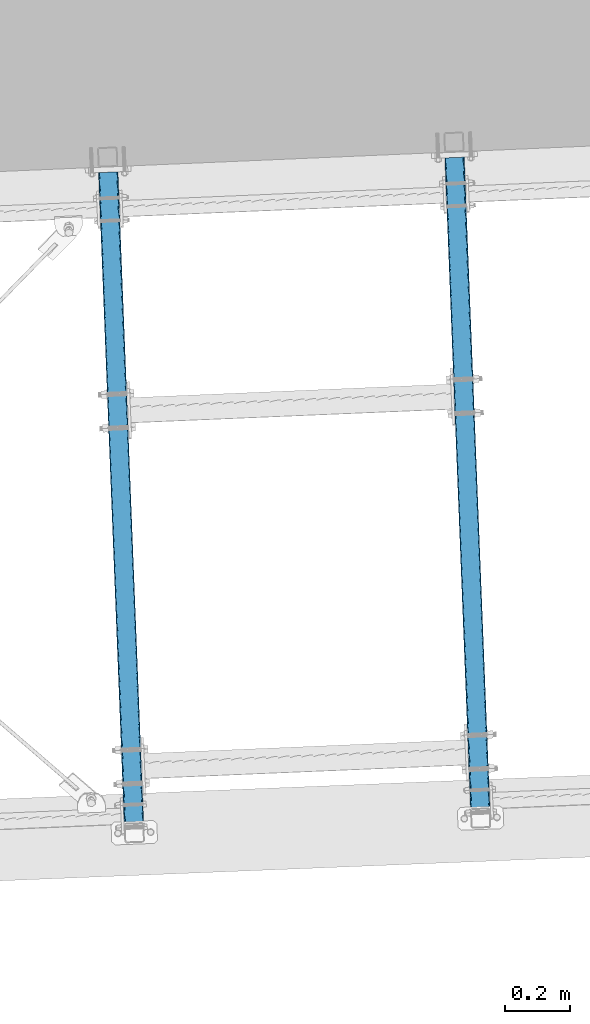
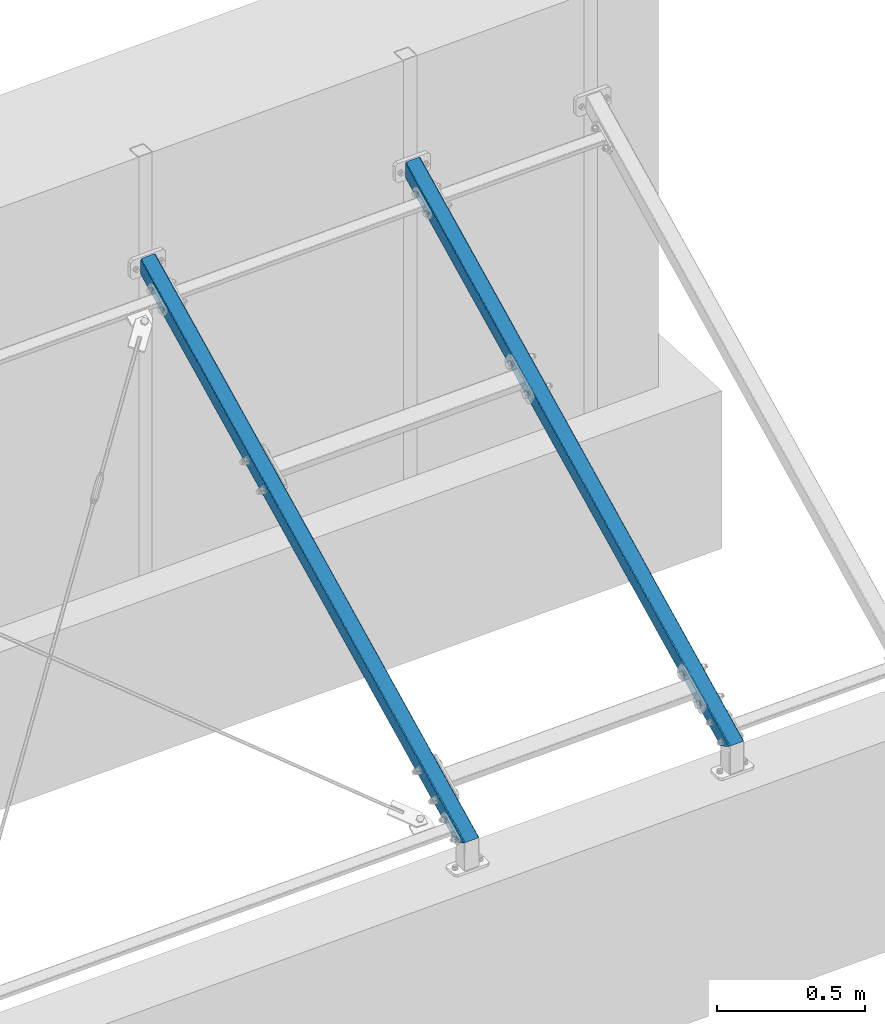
# One storey, part 17 of 288: 2 members, 64 openings.
"""IFC2X3 building model written with IfcOpenShell, lengths in millimetres."""

from ifc_helpers import new_model, entity, si_unit, converted_unit, frame, frame_2d, origin, origin_with_axes, origin_2d, place, context, project, spatial, hollow_rectangle, circle, extrude, clip, halfspace, material, element, save


model = new_model("IFC2X3")

# Units and contexts
model_context = context("Model", 3, precision=1e-09, world=origin_with_axes())
ifc_project = project(units=[si_unit("LENGTHUNIT", "METRE", prefix="MILLI"), si_unit("AREAUNIT", "SQUARE_METRE"), si_unit("VOLUMEUNIT", "CUBIC_METRE"), converted_unit("PLANEANGLEUNIT", "DEGREE", entity("IfcPlaneAngleMeasure", 0.01745329), si_unit("PLANEANGLEUNIT", "RADIAN"), dimensions=[0, 0, 0, 0, 0, 0, 0])], contexts=[model_context])

# Site, building, storey
site_placement = place(None, origin_with_axes())
site = spatial("IfcSite", under=ifc_project, at=site_placement, Name="Remont ?wietlik?w nad MC w NCPP w Opolu", CompositionType="ELEMENT")
building_placement = place(site_placement, origin_with_axes())
building = spatial("IfcBuilding", under=site, at=building_placement, Name="Konstrukcja 1", CompositionType="ELEMENT")
storey_placement = place(building_placement, origin_with_axes())
storey = spatial("IfcBuildingStorey", under=building, at=storey_placement, Name="Default Storey", CompositionType="ELEMENT", Elevation=0.0)

# Member, openings
ifc_material = material(Name="S235")
member_1_placement = place(None, frame((8694.041512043, 15968.596870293, 1320.859227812), z_axis=(0.034042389, -0.863500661, -0.503197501), x_axis=(-0.019822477, 0.502806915, -0.864171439)))
member_1 = element("IfcMember", 1, at=member_1_placement, inside=storey, material=ifc_material, Name="Horizontal_Beam", ObjectType="Horizontal_Beam", context=model_context, shape_type="Clipping", body=[
    clip(clip(clip(extrude(hollow_rectangle(XDim=60.0, YDim=60.0, WallThickness=3.0, InnerFilletRadius=3.0, OuterFilletRadius=6.0, at=origin_2d()), origin(), (0.0, 0.0, 1.0), 2455.927993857), halfspace(frame((1112.048083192, -9316.345389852, 715.144235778), z_axis=(-0.503197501, 0.0, 0.864171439), x_axis=(0.0, 1.0, 0.0)), True)), halfspace(frame((1119.775592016, -9316.341858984, 701.873318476), z_axis=(-0.503197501, -2.27e-07, 0.864171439), x_axis=(0.0, 1.0, 2.09e-07)), True)), halfspace(frame((-10124.500190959, -9316.345286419, 8227.453466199), z_axis=(-0.498398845, 0.0, -0.86694786), x_axis=(0.0, -1.0, 0.0)), True)),
])
opening_1_placement = place(member_1_placement, frame((7.732047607, 26.273066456, 2307.495272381), z_axis=(-0.001741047, -0.999995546, 0.002424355), x_axis=(0.999998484, -0.001741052, 0.0)))
element("IfcOpeningElement", 2, at=opening_1_placement, cuts=member_1, ObjectType="Opening", context=model_context, shape_type="SweptSolid", body=[
    extrude(circle(Radius=7.001, at=frame_2d((-7.001, -2.9551e-05), x_axis=(1.0, 0.0))), origin(), (0.0, 0.0, -1.0), 4.232758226),
])
opening_2_placement = place(member_1_placement, frame((7.732047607, 26.467015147, 2387.49503728), z_axis=(-0.001741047, -0.999995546, 0.002424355), x_axis=(0.999998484, -0.001741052, 0.0)))
element("IfcOpeningElement", 3, at=opening_2_placement, cuts=member_1, ObjectType="Opening", context=model_context, shape_type="SweptSolid", body=[
    extrude(circle(Radius=7.001, at=frame_2d((-7.001, -2.9551e-05), x_axis=(1.0, 0.0))), origin(), (0.0, 0.0, -1.0), 4.232758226),
])
opening_3_placement = place(member_1_placement, frame((7.732047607, 26.273066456, 2307.495272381), z_axis=(-0.001741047, -0.999995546, 0.002424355), x_axis=(0.999998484, -0.001741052, 0.0)))
element("IfcOpeningElement", 4, at=opening_3_placement, cuts=member_1, ObjectType="Opening", context=model_context, shape_type="SweptSolid", body=[
    extrude(circle(Radius=7.001, at=frame_2d((-7.001, -2.9551e-05), x_axis=(1.0, 0.0))), origin(), (0.0, 0.0, -1.0), 4.038808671),
])
opening_4_placement = place(member_1_placement, frame((7.732047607, 26.467015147, 2387.49503728), z_axis=(-0.001741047, -0.999995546, 0.002424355), x_axis=(0.999998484, -0.001741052, 0.0)))
element("IfcOpeningElement", 5, at=opening_4_placement, cuts=member_1, ObjectType="Opening", context=model_context, shape_type="SweptSolid", body=[
    extrude(circle(Radius=7.001, at=frame_2d((-7.001, -2.9551e-05), x_axis=(1.0, 0.0))), origin(), (0.0, 0.0, -1.0), 4.038808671),
])
opening_5_placement = place(member_1_placement, frame((7.632807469, -30.726933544, 2307.633461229), z_axis=(-0.001741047, -0.999995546, 0.002424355), x_axis=(0.999998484, -0.001741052, 0.0)))
element("IfcOpeningElement", 6, at=opening_5_placement, cuts=member_1, ObjectType="Opening", context=model_context, shape_type="SweptSolid", body=[
    extrude(circle(Radius=7.001, at=frame_2d((-7.001, -2.9551e-05), x_axis=(1.0, 0.0))), origin(), (0.0, 0.0, -1.0), 4.232758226),
])
opening_6_placement = place(member_1_placement, frame((7.632807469, -30.532984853, 2387.633226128), z_axis=(-0.001741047, -0.999995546, 0.002424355), x_axis=(0.999998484, -0.001741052, 0.0)))
element("IfcOpeningElement", 7, at=opening_6_placement, cuts=member_1, ObjectType="Opening", context=model_context, shape_type="SweptSolid", body=[
    extrude(circle(Radius=7.001, at=frame_2d((-7.001, -2.9551e-05), x_axis=(1.0, 0.0))), origin(), (0.0, 0.0, -1.0), 4.232758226),
])
opening_7_placement = place(member_1_placement, frame((7.632807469, -30.726933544, 2307.633461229), z_axis=(-0.001741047, -0.999995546, 0.002424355), x_axis=(0.999998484, -0.001741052, 0.0)))
element("IfcOpeningElement", 8, at=opening_7_placement, cuts=member_1, ObjectType="Opening", context=model_context, shape_type="SweptSolid", body=[
    extrude(circle(Radius=7.001, at=frame_2d((-7.001, -2.9551e-05), x_axis=(1.0, 0.0))), origin(), (0.0, 0.0, -1.0), 4.038808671),
])
opening_8_placement = place(member_1_placement, frame((7.632807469, -30.532984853, 2387.633226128), z_axis=(-0.001741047, -0.999995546, 0.002424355), x_axis=(0.999998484, -0.001741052, 0.0)))
element("IfcOpeningElement", 9, at=opening_8_placement, cuts=member_1, ObjectType="Opening", context=model_context, shape_type="SweptSolid", body=[
    extrude(circle(Radius=7.001, at=frame_2d((-7.001, -2.9551e-05), x_axis=(1.0, 0.0))), origin(), (0.0, 0.0, -1.0), 4.038808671),
])
opening_9_placement = place(member_1_placement, frame((7.799607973, 26.166667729, 852.304879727), z_axis=(-0.001741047, -0.999995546, 0.002424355), x_axis=(0.999998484, -0.001741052, 0.0)))
element("IfcOpeningElement", 10, at=opening_9_placement, cuts=member_1, ObjectType="Opening", context=model_context, shape_type="SweptSolid", body=[
    extrude(circle(Radius=9.001, at=frame_2d((-9.001, -3.7993e-05), x_axis=(1.0, 0.0))), origin(), (0.0, 0.0, -1.0), 4.340817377),
])
opening_10_placement = place(member_1_placement, frame((7.799607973, 26.457590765, 972.304527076), z_axis=(-0.001741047, -0.999995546, 0.002424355), x_axis=(0.999998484, -0.001741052, 0.0)))
element("IfcOpeningElement", 11, at=opening_10_placement, cuts=member_1, ObjectType="Opening", context=model_context, shape_type="SweptSolid", body=[
    extrude(circle(Radius=9.001, at=frame_2d((-9.001, -3.7993e-05), x_axis=(1.0, 0.0))), origin(), (0.0, 0.0, -1.0), 4.340817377),
])
opening_11_placement = place(member_1_placement, frame((7.799607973, 26.166667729, 852.304879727), z_axis=(-0.001741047, -0.999995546, 0.002424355), x_axis=(0.999998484, -0.001741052, 0.0)))
element("IfcOpeningElement", 12, at=opening_11_placement, cuts=member_1, ObjectType="Opening", context=model_context, shape_type="SweptSolid", body=[
    extrude(circle(Radius=9.001, at=frame_2d((-9.001, -3.7993e-05), x_axis=(1.0, 0.0))), origin(), (0.0, 0.0, -1.0), 4.049893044),
])
opening_12_placement = place(member_1_placement, frame((7.799607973, 26.457590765, 972.304527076), z_axis=(-0.001741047, -0.999995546, 0.002424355), x_axis=(0.999998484, -0.001741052, 0.0)))
element("IfcOpeningElement", 13, at=opening_12_placement, cuts=member_1, ObjectType="Opening", context=model_context, shape_type="SweptSolid", body=[
    extrude(circle(Radius=9.001, at=frame_2d((-9.001, -3.7993e-05), x_axis=(1.0, 0.0))), origin(), (0.0, 0.0, -1.0), 4.049893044),
])
opening_13_placement = place(member_1_placement, frame((7.700367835, -30.833332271, 852.443068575), z_axis=(-0.001741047, -0.999995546, 0.002424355), x_axis=(0.999998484, -0.001741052, 0.0)))
element("IfcOpeningElement", 14, at=opening_13_placement, cuts=member_1, ObjectType="Opening", context=model_context, shape_type="SweptSolid", body=[
    extrude(circle(Radius=9.001, at=frame_2d((-9.001, -3.7993e-05), x_axis=(1.0, 0.0))), origin(), (0.0, 0.0, -1.0), 4.340817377),
])
opening_14_placement = place(member_1_placement, frame((7.700367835, -30.542409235, 972.442715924), z_axis=(-0.001741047, -0.999995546, 0.002424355), x_axis=(0.999998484, -0.001741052, 0.0)))
element("IfcOpeningElement", 15, at=opening_14_placement, cuts=member_1, ObjectType="Opening", context=model_context, shape_type="SweptSolid", body=[
    extrude(circle(Radius=9.001, at=frame_2d((-9.001, -3.7993e-05), x_axis=(1.0, 0.0))), origin(), (0.0, 0.0, -1.0), 4.340817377),
])
opening_15_placement = place(member_1_placement, frame((7.700367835, -30.833332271, 852.443068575), z_axis=(-0.001741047, -0.999995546, 0.002424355), x_axis=(0.999998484, -0.001741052, 0.0)))
element("IfcOpeningElement", 16, at=opening_15_placement, cuts=member_1, ObjectType="Opening", context=model_context, shape_type="SweptSolid", body=[
    extrude(circle(Radius=9.001, at=frame_2d((-9.001, -3.7993e-05), x_axis=(1.0, 0.0))), origin(), (0.0, 0.0, -1.0), 4.049893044),
])
opening_16_placement = place(member_1_placement, frame((7.700367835, -30.542409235, 972.442715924), z_axis=(-0.001741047, -0.999995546, 0.002424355), x_axis=(0.999998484, -0.001741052, 0.0)))
element("IfcOpeningElement", 17, at=opening_16_placement, cuts=member_1, ObjectType="Opening", context=model_context, shape_type="SweptSolid", body=[
    extrude(circle(Radius=9.001, at=frame_2d((-9.001, -3.7993e-05), x_axis=(1.0, 0.0))), origin(), (0.0, 0.0, -1.0), 4.049893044),
])
opening_17_placement = place(member_1_placement, frame((-1.19403594, 30.617770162, 198.294353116), z_axis=(-0.001741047, -0.999995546, 0.002424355), x_axis=(-0.999998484, 0.001741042, -4.221e-06)))
element("IfcOpeningElement", 18, at=opening_17_placement, cuts=member_1, ObjectType="Opening", context=model_context, shape_type="SweptSolid", body=[
    extrude(circle(Radius=7.001, at=frame_2d((0.0, 40.0), x_axis=(1.0, 0.0))), origin(), (0.0, 0.0, 1.0), 4.038808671),
])
opening_18_placement = place(member_1_placement, frame((-1.19403594, 30.617770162, 198.294353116), z_axis=(-0.001741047, -0.999995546, 0.002424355), x_axis=(-0.999998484, 0.001741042, -4.221e-06)))
element("IfcOpeningElement", 19, at=opening_18_placement, cuts=member_1, ObjectType="Opening", context=model_context, shape_type="SweptSolid", body=[
    extrude(circle(Radius=7.001, at=frame_2d((0.0, -40.0), x_axis=(1.0, 0.0))), origin(), (0.0, 0.0, 1.0), 4.038808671),
])
opening_19_placement = place(member_1_placement, frame((-1.19403594, 30.617770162, 198.294353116), z_axis=(-0.001741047, -0.999995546, 0.002424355), x_axis=(-0.999998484, 0.001741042, -4.221e-06)))
element("IfcOpeningElement", 20, at=opening_19_placement, cuts=member_1, ObjectType="Opening", context=model_context, shape_type="SweptSolid", body=[
    extrude(circle(Radius=7.001, at=frame_2d((0.0, 40.0), x_axis=(1.0, 0.0))), origin(), (0.0, 0.0, 1.0), 4.232758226),
])
opening_20_placement = place(member_1_placement, frame((-1.19403594, 30.617770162, 198.294353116), z_axis=(-0.001741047, -0.999995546, 0.002424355), x_axis=(-0.999998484, 0.001741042, -4.221e-06)))
element("IfcOpeningElement", 21, at=opening_20_placement, cuts=member_1, ObjectType="Opening", context=model_context, shape_type="SweptSolid", body=[
    extrude(circle(Radius=7.001, at=frame_2d((0.0, -40.0), x_axis=(1.0, 0.0))), origin(), (0.0, 0.0, 1.0), 4.232758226),
])
opening_21_placement = place(member_1_placement, frame((-1.293276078, -26.382229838, 198.432541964), z_axis=(-0.001741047, -0.999995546, 0.002424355), x_axis=(-0.999998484, 0.001741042, -4.221e-06)))
element("IfcOpeningElement", 22, at=opening_21_placement, cuts=member_1, ObjectType="Opening", context=model_context, shape_type="SweptSolid", body=[
    extrude(circle(Radius=7.001, at=frame_2d((0.0, 40.0), x_axis=(1.0, 0.0))), origin(), (0.0, 0.0, 1.0), 4.038808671),
])
opening_22_placement = place(member_1_placement, frame((-1.293276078, -26.382229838, 198.432541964), z_axis=(-0.001741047, -0.999995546, 0.002424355), x_axis=(-0.999998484, 0.001741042, -4.221e-06)))
element("IfcOpeningElement", 23, at=opening_22_placement, cuts=member_1, ObjectType="Opening", context=model_context, shape_type="SweptSolid", body=[
    extrude(circle(Radius=7.001, at=frame_2d((0.0, -40.0), x_axis=(1.0, 0.0))), origin(), (0.0, 0.0, 1.0), 4.038808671),
])
opening_23_placement = place(member_1_placement, frame((-1.293276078, -26.382229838, 198.432541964), z_axis=(-0.001741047, -0.999995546, 0.002424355), x_axis=(-0.999998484, 0.001741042, -4.221e-06)))
element("IfcOpeningElement", 24, at=opening_23_placement, cuts=member_1, ObjectType="Opening", context=model_context, shape_type="SweptSolid", body=[
    extrude(circle(Radius=7.001, at=frame_2d((0.0, 40.0), x_axis=(1.0, 0.0))), origin(), (0.0, 0.0, 1.0), 4.232758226),
])
opening_24_placement = place(member_1_placement, frame((-1.293276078, -26.382229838, 198.432541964), z_axis=(-0.001741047, -0.999995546, 0.002424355), x_axis=(-0.999998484, 0.001741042, -4.221e-06)))
element("IfcOpeningElement", 25, at=opening_24_placement, cuts=member_1, ObjectType="Opening", context=model_context, shape_type="SweptSolid", body=[
    extrude(circle(Radius=7.001, at=frame_2d((0.0, -40.0), x_axis=(1.0, 0.0))), origin(), (0.0, 0.0, 1.0), 4.232758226),
])
opening_25_placement = place(member_1_placement, frame((7.794289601, 26.166667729, 2112.305056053), z_axis=(-0.001741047, -0.999995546, 0.002424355), x_axis=(0.999998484, -0.001741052, 0.0)))
element("IfcOpeningElement", 26, at=opening_25_placement, cuts=member_1, ObjectType="Opening", context=model_context, shape_type="SweptSolid", body=[
    extrude(circle(Radius=9.001, at=frame_2d((-9.001, -3.7993e-05), x_axis=(1.0, 0.0))), origin(), (0.0, 0.0, -1.0), 4.340817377),
])
opening_26_placement = place(member_1_placement, frame((7.794289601, 26.457590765, 2232.304703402), z_axis=(-0.001741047, -0.999995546, 0.002424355), x_axis=(0.999998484, -0.001741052, 0.0)))
element("IfcOpeningElement", 27, at=opening_26_placement, cuts=member_1, ObjectType="Opening", context=model_context, shape_type="SweptSolid", body=[
    extrude(circle(Radius=9.001, at=frame_2d((-9.001, -3.7993e-05), x_axis=(1.0, 0.0))), origin(), (0.0, 0.0, -1.0), 4.340817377),
])
opening_27_placement = place(member_1_placement, frame((7.794289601, 26.166667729, 2112.305056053), z_axis=(-0.001741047, -0.999995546, 0.002424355), x_axis=(0.999998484, -0.001741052, 0.0)))
element("IfcOpeningElement", 28, at=opening_27_placement, cuts=member_1, ObjectType="Opening", context=model_context, shape_type="SweptSolid", body=[
    extrude(circle(Radius=9.001, at=frame_2d((-9.001, -3.7993e-05), x_axis=(1.0, 0.0))), origin(), (0.0, 0.0, -1.0), 4.049893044),
])
opening_28_placement = place(member_1_placement, frame((7.794289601, 26.457590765, 2232.304703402), z_axis=(-0.001741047, -0.999995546, 0.002424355), x_axis=(0.999998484, -0.001741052, 0.0)))
element("IfcOpeningElement", 29, at=opening_28_placement, cuts=member_1, ObjectType="Opening", context=model_context, shape_type="SweptSolid", body=[
    extrude(circle(Radius=9.001, at=frame_2d((-9.001, -3.7993e-05), x_axis=(1.0, 0.0))), origin(), (0.0, 0.0, -1.0), 4.049893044),
])
opening_29_placement = place(member_1_placement, frame((7.695049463, -30.833332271, 2112.443244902), z_axis=(-0.001741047, -0.999995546, 0.002424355), x_axis=(0.999998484, -0.001741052, 0.0)))
element("IfcOpeningElement", 30, at=opening_29_placement, cuts=member_1, ObjectType="Opening", context=model_context, shape_type="SweptSolid", body=[
    extrude(circle(Radius=9.001, at=frame_2d((-9.001, -3.7993e-05), x_axis=(1.0, 0.0))), origin(), (0.0, 0.0, -1.0), 4.340817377),
])
opening_30_placement = place(member_1_placement, frame((7.695049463, -30.542409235, 2232.44289225), z_axis=(-0.001741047, -0.999995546, 0.002424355), x_axis=(0.999998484, -0.001741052, 0.0)))
element("IfcOpeningElement", 31, at=opening_30_placement, cuts=member_1, ObjectType="Opening", context=model_context, shape_type="SweptSolid", body=[
    extrude(circle(Radius=9.001, at=frame_2d((-9.001, -3.7993e-05), x_axis=(1.0, 0.0))), origin(), (0.0, 0.0, -1.0), 4.340817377),
])
opening_31_placement = place(member_1_placement, frame((7.695049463, -30.833332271, 2112.443244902), z_axis=(-0.001741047, -0.999995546, 0.002424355), x_axis=(0.999998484, -0.001741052, 0.0)))
element("IfcOpeningElement", 32, at=opening_31_placement, cuts=member_1, ObjectType="Opening", context=model_context, shape_type="SweptSolid", body=[
    extrude(circle(Radius=9.001, at=frame_2d((-9.001, -3.7993e-05), x_axis=(1.0, 0.0))), origin(), (0.0, 0.0, -1.0), 4.049893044),
])
opening_32_placement = place(member_1_placement, frame((7.695049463, -30.542409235, 2232.44289225), z_axis=(-0.001741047, -0.999995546, 0.002424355), x_axis=(0.999998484, -0.001741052, 0.0)))
element("IfcOpeningElement", 33, at=opening_32_placement, cuts=member_1, ObjectType="Opening", context=model_context, shape_type="SweptSolid", body=[
    extrude(circle(Radius=9.001, at=frame_2d((-9.001, -3.7993e-05), x_axis=(1.0, 0.0))), origin(), (0.0, 0.0, -1.0), 4.049893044),
])

member_2_placement = place(None, frame((9753.082518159, 16013.689863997, 1321.498411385), z_axis=(0.034038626, -0.863405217, -0.503361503), x_axis=(-0.019828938, 0.50297079, -0.864075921)))
member_2 = element("IfcMember", 34, at=member_2_placement, inside=storey, material=ifc_material, Name="Horizontal_Beam", ObjectType="Horizontal_Beam", context=model_context, shape_type="Clipping", body=[
    clip(clip(clip(extrude(hollow_rectangle(XDim=60.0, YDim=60.0, WallThickness=3.0, InnerFilletRadius=3.0, OuterFilletRadius=6.0, at=origin_2d()), origin(), (0.0, 0.0, 1.0), 2456.410924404), halfspace(frame((1112.369134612, -10376.340711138, 715.840907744), z_axis=(-0.503361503, 0.0, 0.864075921), x_axis=(0.0, 1.0, 0.0)), True)), halfspace(frame((1120.519583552, -10376.337179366, 701.849756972), z_axis=(-0.503361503, -2.27e-07, 0.864075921), x_axis=(0.0, 1.0, 2.09e-07)), True)), halfspace(frame((-10127.982579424, -10376.340607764, 8228.662370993), z_axis=(-0.498316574, 0.0, -0.866995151), x_axis=(0.0, -1.0, 0.0)), True)),
])
opening_33_placement = place(member_2_placement, frame((8.01160876, 26.273066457, 2308.134197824), z_axis=(-0.001741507, -0.999995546, 0.002424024), x_axis=(0.999998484, -0.001741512, 0.0)))
element("IfcOpeningElement", 35, at=opening_33_placement, cuts=member_2, ObjectType="Opening", context=model_context, shape_type="SweptSolid", body=[
    extrude(circle(Radius=7.001, at=frame_2d((-7.000999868, -0.001358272), x_axis=(1.0, 0.0))), origin(), (0.0, 0.0, -1.0), 4.232758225),
])
opening_34_placement = place(member_2_placement, frame((7.996425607, 26.467015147, 2388.133961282), z_axis=(-0.001741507, -0.999995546, 0.002424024), x_axis=(0.999998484, -0.001741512, 0.0)))
element("IfcOpeningElement", 36, at=opening_34_placement, cuts=member_2, ObjectType="Opening", context=model_context, shape_type="SweptSolid", body=[
    extrude(circle(Radius=7.001, at=frame_2d((-7.000999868, -0.001358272), x_axis=(1.0, 0.0))), origin(), (0.0, 0.0, -1.0), 4.232758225),
])
opening_35_placement = place(member_2_placement, frame((8.01160876, 26.273066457, 2308.134197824), z_axis=(-0.001741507, -0.999995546, 0.002424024), x_axis=(0.999998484, -0.001741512, 0.0)))
element("IfcOpeningElement", 37, at=opening_35_placement, cuts=member_2, ObjectType="Opening", context=model_context, shape_type="SweptSolid", body=[
    extrude(circle(Radius=7.001, at=frame_2d((-7.000999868, -0.001358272), x_axis=(1.0, 0.0))), origin(), (0.0, 0.0, -1.0), 4.038808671),
])
opening_36_placement = place(member_2_placement, frame((7.996425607, 26.467015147, 2388.133961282), z_axis=(-0.001741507, -0.999995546, 0.002424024), x_axis=(0.999998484, -0.001741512, 0.0)))
element("IfcOpeningElement", 38, at=opening_36_placement, cuts=member_2, ObjectType="Opening", context=model_context, shape_type="SweptSolid", body=[
    extrude(circle(Radius=7.001, at=frame_2d((-7.000999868, -0.001358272), x_axis=(1.0, 0.0))), origin(), (0.0, 0.0, -1.0), 4.038808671),
])
opening_37_placement = place(member_2_placement, frame((7.912342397, -30.726933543, 2308.272367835), z_axis=(-0.001741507, -0.999995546, 0.002424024), x_axis=(0.999998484, -0.001741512, 0.0)))
element("IfcOpeningElement", 39, at=opening_37_placement, cuts=member_2, ObjectType="Opening", context=model_context, shape_type="SweptSolid", body=[
    extrude(circle(Radius=7.001, at=frame_2d((-7.000999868, -0.001358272), x_axis=(1.0, 0.0))), origin(), (0.0, 0.0, -1.0), 4.232758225),
])
opening_38_placement = place(member_2_placement, frame((7.897159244, -30.532984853, 2388.272131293), z_axis=(-0.001741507, -0.999995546, 0.002424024), x_axis=(0.999998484, -0.001741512, 0.0)))
element("IfcOpeningElement", 40, at=opening_38_placement, cuts=member_2, ObjectType="Opening", context=model_context, shape_type="SweptSolid", body=[
    extrude(circle(Radius=7.001, at=frame_2d((-7.000999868, -0.001358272), x_axis=(1.0, 0.0))), origin(), (0.0, 0.0, -1.0), 4.232758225),
])
opening_39_placement = place(member_2_placement, frame((7.912342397, -30.726933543, 2308.272367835), z_axis=(-0.001741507, -0.999995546, 0.002424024), x_axis=(0.999998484, -0.001741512, 0.0)))
element("IfcOpeningElement", 41, at=opening_39_placement, cuts=member_2, ObjectType="Opening", context=model_context, shape_type="SweptSolid", body=[
    extrude(circle(Radius=7.001, at=frame_2d((-7.000999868, -0.001358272), x_axis=(1.0, 0.0))), origin(), (0.0, 0.0, -1.0), 4.038808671),
])
opening_40_placement = place(member_2_placement, frame((7.897159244, -30.532984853, 2388.272131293), z_axis=(-0.001741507, -0.999995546, 0.002424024), x_axis=(0.999998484, -0.001741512, 0.0)))
element("IfcOpeningElement", 42, at=opening_40_placement, cuts=member_2, ObjectType="Opening", context=model_context, shape_type="SweptSolid", body=[
    extrude(circle(Radius=7.001, at=frame_2d((-7.000999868, -0.001358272), x_axis=(1.0, 0.0))), origin(), (0.0, 0.0, -1.0), 4.038808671),
])
opening_41_placement = place(member_2_placement, frame((-0.514169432, 30.617770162, 198.931622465), z_axis=(-0.001741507, -0.999995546, 0.002424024), x_axis=(-0.999998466, 0.001741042, -0.000194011)))
element("IfcOpeningElement", 43, at=opening_41_placement, cuts=member_2, ObjectType="Opening", context=model_context, shape_type="SweptSolid", body=[
    extrude(circle(Radius=7.001, at=frame_2d((0.0, 40.0), x_axis=(1.0, 0.0))), origin(), (0.0, 0.0, 1.0), 4.038808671),
])
opening_42_placement = place(member_2_placement, frame((-0.514169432, 30.617770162, 198.931622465), z_axis=(-0.001741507, -0.999995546, 0.002424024), x_axis=(-0.999998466, 0.001741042, -0.000194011)))
element("IfcOpeningElement", 44, at=opening_42_placement, cuts=member_2, ObjectType="Opening", context=model_context, shape_type="SweptSolid", body=[
    extrude(circle(Radius=7.001, at=frame_2d((0.0, -40.0), x_axis=(1.0, 0.0))), origin(), (0.0, 0.0, 1.0), 4.038808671),
])
opening_43_placement = place(member_2_placement, frame((-0.514169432, 30.617770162, 198.931622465), z_axis=(-0.001741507, -0.999995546, 0.002424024), x_axis=(-0.999998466, 0.001741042, -0.000194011)))
element("IfcOpeningElement", 45, at=opening_43_placement, cuts=member_2, ObjectType="Opening", context=model_context, shape_type="SweptSolid", body=[
    extrude(circle(Radius=7.001, at=frame_2d((0.0, 40.0), x_axis=(1.0, 0.0))), origin(), (0.0, 0.0, 1.0), 4.232758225),
])
opening_44_placement = place(member_2_placement, frame((-0.514169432, 30.617770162, 198.931622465), z_axis=(-0.001741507, -0.999995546, 0.002424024), x_axis=(-0.999998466, 0.001741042, -0.000194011)))
element("IfcOpeningElement", 46, at=opening_44_placement, cuts=member_2, ObjectType="Opening", context=model_context, shape_type="SweptSolid", body=[
    extrude(circle(Radius=7.001, at=frame_2d((0.0, -40.0), x_axis=(1.0, 0.0))), origin(), (0.0, 0.0, 1.0), 4.232758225),
])
opening_45_placement = place(member_2_placement, frame((-0.613435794, -26.382229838, 199.069792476), z_axis=(-0.001741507, -0.999995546, 0.002424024), x_axis=(-0.999998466, 0.001741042, -0.000194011)))
element("IfcOpeningElement", 47, at=opening_45_placement, cuts=member_2, ObjectType="Opening", context=model_context, shape_type="SweptSolid", body=[
    extrude(circle(Radius=7.001, at=frame_2d((0.0, 40.0), x_axis=(1.0, 0.0))), origin(), (0.0, 0.0, 1.0), 4.038808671),
])
opening_46_placement = place(member_2_placement, frame((-0.613435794, -26.382229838, 199.069792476), z_axis=(-0.001741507, -0.999995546, 0.002424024), x_axis=(-0.999998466, 0.001741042, -0.000194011)))
element("IfcOpeningElement", 48, at=opening_46_placement, cuts=member_2, ObjectType="Opening", context=model_context, shape_type="SweptSolid", body=[
    extrude(circle(Radius=7.001, at=frame_2d((0.0, -40.0), x_axis=(1.0, 0.0))), origin(), (0.0, 0.0, 1.0), 4.038808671),
])
opening_47_placement = place(member_2_placement, frame((-0.613435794, -26.382229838, 199.069792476), z_axis=(-0.001741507, -0.999995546, 0.002424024), x_axis=(-0.999998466, 0.001741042, -0.000194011)))
element("IfcOpeningElement", 49, at=opening_47_placement, cuts=member_2, ObjectType="Opening", context=model_context, shape_type="SweptSolid", body=[
    extrude(circle(Radius=7.001, at=frame_2d((0.0, 40.0), x_axis=(1.0, 0.0))), origin(), (0.0, 0.0, 1.0), 4.232758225),
])
opening_48_placement = place(member_2_placement, frame((-0.613435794, -26.382229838, 199.069792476), z_axis=(-0.001741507, -0.999995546, 0.002424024), x_axis=(-0.999998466, 0.001741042, -0.000194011)))
element("IfcOpeningElement", 50, at=opening_48_placement, cuts=member_2, ObjectType="Opening", context=model_context, shape_type="SweptSolid", body=[
    extrude(circle(Radius=7.001, at=frame_2d((0.0, -40.0), x_axis=(1.0, 0.0))), origin(), (0.0, 0.0, 1.0), 4.232758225),
])
opening_49_placement = place(member_2_placement, frame((-0.649458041, 30.672199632, 912.931389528), z_axis=(-0.001741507, -0.999995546, 0.002424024), x_axis=(-0.999998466, 0.001741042, -0.000194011)))
element("IfcOpeningElement", 51, at=opening_49_placement, cuts=member_2, ObjectType="Opening", context=model_context, shape_type="SweptSolid", body=[
    extrude(circle(Radius=9.001, at=frame_2d((0.0, 60.0), x_axis=(1.0, 0.0))), origin(), (0.0, 0.0, 1.0), 4.049893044),
])
opening_50_placement = place(member_2_placement, frame((-0.649458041, 30.672199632, 912.931389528), z_axis=(-0.001741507, -0.999995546, 0.002424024), x_axis=(-0.999998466, 0.001741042, -0.000194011)))
element("IfcOpeningElement", 52, at=opening_50_placement, cuts=member_2, ObjectType="Opening", context=model_context, shape_type="SweptSolid", body=[
    extrude(circle(Radius=9.001, at=frame_2d((0.0, -60.0), x_axis=(1.0, 0.0))), origin(), (0.0, 0.0, 1.0), 4.049893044),
])
opening_51_placement = place(member_2_placement, frame((-0.649458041, 30.672199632, 912.931389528), z_axis=(-0.001741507, -0.999995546, 0.002424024), x_axis=(-0.999998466, 0.001741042, -0.000194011)))
element("IfcOpeningElement", 53, at=opening_51_placement, cuts=member_2, ObjectType="Opening", context=model_context, shape_type="SweptSolid", body=[
    extrude(circle(Radius=9.001, at=frame_2d((0.0, 60.0), x_axis=(1.0, 0.0))), origin(), (0.0, 0.0, 1.0), 4.340817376),
])
opening_52_placement = place(member_2_placement, frame((-0.649458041, 30.672199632, 912.931389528), z_axis=(-0.001741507, -0.999995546, 0.002424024), x_axis=(-0.999998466, 0.001741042, -0.000194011)))
element("IfcOpeningElement", 54, at=opening_52_placement, cuts=member_2, ObjectType="Opening", context=model_context, shape_type="SweptSolid", body=[
    extrude(circle(Radius=9.001, at=frame_2d((0.0, -60.0), x_axis=(1.0, 0.0))), origin(), (0.0, 0.0, 1.0), 4.340817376),
])
opening_53_placement = place(member_2_placement, frame((-0.748724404, -26.327800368, 913.069559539), z_axis=(-0.001741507, -0.999995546, 0.002424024), x_axis=(-0.999998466, 0.001741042, -0.000194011)))
element("IfcOpeningElement", 55, at=opening_53_placement, cuts=member_2, ObjectType="Opening", context=model_context, shape_type="SweptSolid", body=[
    extrude(circle(Radius=9.001, at=frame_2d((0.0, 60.0), x_axis=(1.0, 0.0))), origin(), (0.0, 0.0, 1.0), 4.049893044),
])
opening_54_placement = place(member_2_placement, frame((-0.748724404, -26.327800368, 913.069559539), z_axis=(-0.001741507, -0.999995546, 0.002424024), x_axis=(-0.999998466, 0.001741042, -0.000194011)))
element("IfcOpeningElement", 56, at=opening_54_placement, cuts=member_2, ObjectType="Opening", context=model_context, shape_type="SweptSolid", body=[
    extrude(circle(Radius=9.001, at=frame_2d((0.0, -60.0), x_axis=(1.0, 0.0))), origin(), (0.0, 0.0, 1.0), 4.049893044),
])
opening_55_placement = place(member_2_placement, frame((-0.748724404, -26.327800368, 913.069559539), z_axis=(-0.001741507, -0.999995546, 0.002424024), x_axis=(-0.999998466, 0.001741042, -0.000194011)))
element("IfcOpeningElement", 57, at=opening_55_placement, cuts=member_2, ObjectType="Opening", context=model_context, shape_type="SweptSolid", body=[
    extrude(circle(Radius=9.001, at=frame_2d((0.0, 60.0), x_axis=(1.0, 0.0))), origin(), (0.0, 0.0, 1.0), 4.340817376),
])
opening_56_placement = place(member_2_placement, frame((-0.748724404, -26.327800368, 913.069559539), z_axis=(-0.001741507, -0.999995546, 0.002424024), x_axis=(-0.999998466, 0.001741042, -0.000194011)))
element("IfcOpeningElement", 58, at=opening_56_placement, cuts=member_2, ObjectType="Opening", context=model_context, shape_type="SweptSolid", body=[
    extrude(circle(Radius=9.001, at=frame_2d((0.0, -60.0), x_axis=(1.0, 0.0))), origin(), (0.0, 0.0, 1.0), 4.340817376),
])
opening_57_placement = place(member_2_placement, frame((-0.893911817, 30.672199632, 2172.931542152), z_axis=(-0.001741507, -0.999995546, 0.002424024), x_axis=(-0.999998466, 0.001741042, -0.000194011)))
element("IfcOpeningElement", 59, at=opening_57_placement, cuts=member_2, ObjectType="Opening", context=model_context, shape_type="SweptSolid", body=[
    extrude(circle(Radius=9.001, at=frame_2d((0.0, 60.0), x_axis=(1.0, 0.0))), origin(), (0.0, 0.0, 1.0), 4.049893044),
])
opening_58_placement = place(member_2_placement, frame((-0.893911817, 30.672199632, 2172.931542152), z_axis=(-0.001741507, -0.999995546, 0.002424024), x_axis=(-0.999998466, 0.001741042, -0.000194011)))
element("IfcOpeningElement", 60, at=opening_58_placement, cuts=member_2, ObjectType="Opening", context=model_context, shape_type="SweptSolid", body=[
    extrude(circle(Radius=9.001, at=frame_2d((0.0, -60.0), x_axis=(1.0, 0.0))), origin(), (0.0, 0.0, 1.0), 4.049893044),
])
opening_59_placement = place(member_2_placement, frame((-0.893911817, 30.672199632, 2172.931542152), z_axis=(-0.001741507, -0.999995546, 0.002424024), x_axis=(-0.999998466, 0.001741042, -0.000194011)))
element("IfcOpeningElement", 61, at=opening_59_placement, cuts=member_2, ObjectType="Opening", context=model_context, shape_type="SweptSolid", body=[
    extrude(circle(Radius=9.001, at=frame_2d((0.0, 60.0), x_axis=(1.0, 0.0))), origin(), (0.0, 0.0, 1.0), 4.340817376),
])
opening_60_placement = place(member_2_placement, frame((-0.893911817, 30.672199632, 2172.931542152), z_axis=(-0.001741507, -0.999995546, 0.002424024), x_axis=(-0.999998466, 0.001741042, -0.000194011)))
element("IfcOpeningElement", 62, at=opening_60_placement, cuts=member_2, ObjectType="Opening", context=model_context, shape_type="SweptSolid", body=[
    extrude(circle(Radius=9.001, at=frame_2d((0.0, -60.0), x_axis=(1.0, 0.0))), origin(), (0.0, 0.0, 1.0), 4.340817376),
])
opening_61_placement = place(member_2_placement, frame((-0.99317818, -26.327800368, 2173.069712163), z_axis=(-0.001741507, -0.999995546, 0.002424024), x_axis=(-0.999998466, 0.001741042, -0.000194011)))
element("IfcOpeningElement", 63, at=opening_61_placement, cuts=member_2, ObjectType="Opening", context=model_context, shape_type="SweptSolid", body=[
    extrude(circle(Radius=9.001, at=frame_2d((0.0, 60.0), x_axis=(1.0, 0.0))), origin(), (0.0, 0.0, 1.0), 4.049893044),
])
opening_62_placement = place(member_2_placement, frame((-0.99317818, -26.327800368, 2173.069712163), z_axis=(-0.001741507, -0.999995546, 0.002424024), x_axis=(-0.999998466, 0.001741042, -0.000194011)))
element("IfcOpeningElement", 64, at=opening_62_placement, cuts=member_2, ObjectType="Opening", context=model_context, shape_type="SweptSolid", body=[
    extrude(circle(Radius=9.001, at=frame_2d((0.0, -60.0), x_axis=(1.0, 0.0))), origin(), (0.0, 0.0, 1.0), 4.049893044),
])
opening_63_placement = place(member_2_placement, frame((-0.99317818, -26.327800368, 2173.069712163), z_axis=(-0.001741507, -0.999995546, 0.002424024), x_axis=(-0.999998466, 0.001741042, -0.000194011)))
element("IfcOpeningElement", 65, at=opening_63_placement, cuts=member_2, ObjectType="Opening", context=model_context, shape_type="SweptSolid", body=[
    extrude(circle(Radius=9.001, at=frame_2d((0.0, 60.0), x_axis=(1.0, 0.0))), origin(), (0.0, 0.0, 1.0), 4.340817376),
])
opening_64_placement = place(member_2_placement, frame((-0.99317818, -26.327800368, 2173.069712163), z_axis=(-0.001741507, -0.999995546, 0.002424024), x_axis=(-0.999998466, 0.001741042, -0.000194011)))
element("IfcOpeningElement", 66, at=opening_64_placement, cuts=member_2, ObjectType="Opening", context=model_context, shape_type="SweptSolid", body=[
    extrude(circle(Radius=9.001, at=frame_2d((0.0, -60.0), x_axis=(1.0, 0.0))), origin(), (0.0, 0.0, 1.0), 4.340817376),
])

save(model, "model.ifc")
